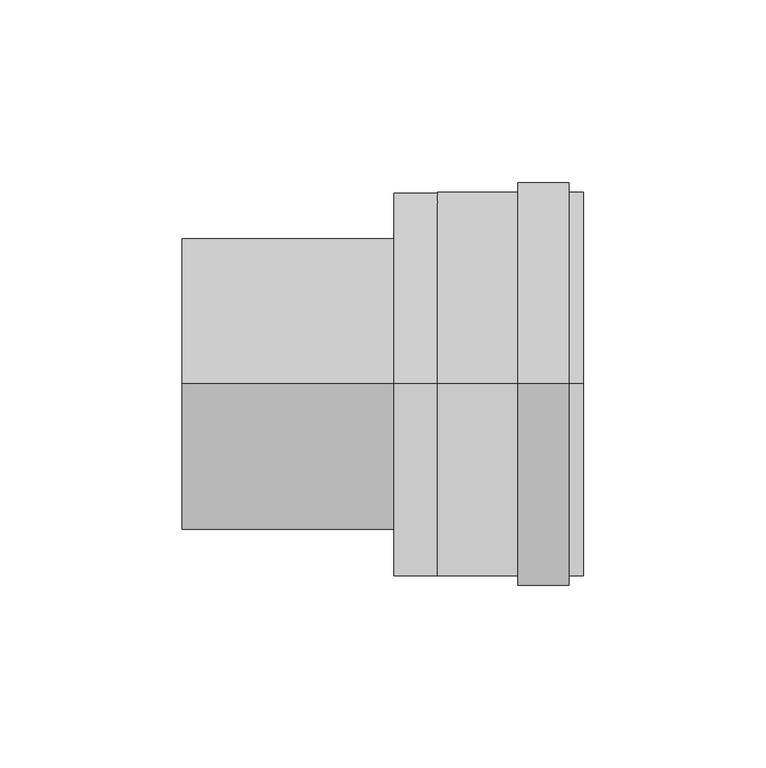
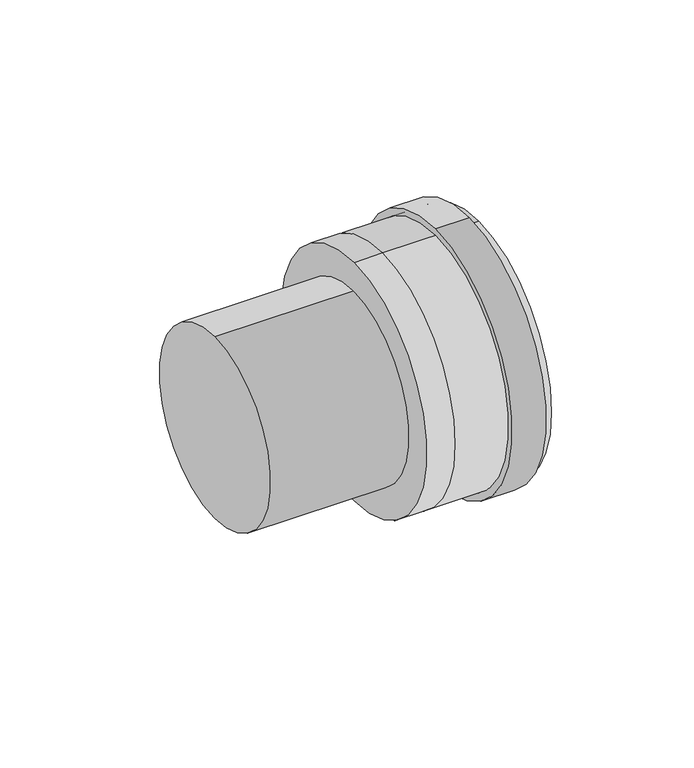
"""IFC4 building model written with IfcOpenShell, lengths in millimetres: duct fitting geometry, RSFen_DUF_UN_Twinline Expander_M&G : ø60-80-100-130-150-200."""

from ifc_helpers import new_model, si_unit, point, frame, origin, origin_2d, place, context, project, spatial, polyline, circle_curve, trimmed, segment, composite_curve, outline, extrude, source, transform, mapped, element, save
from ifc_brep_helpers import plane_surface, cylinder_surface, revolved_surface, advanced_brep


def duct_fitting_533d9af2(model_context):
    return source(origin(), model_context, "Body", "SolidModel", [
        extrude(outline(composite_curve([segment(trimmed(circle_curve(origin_2d(), 55.5), [point((0.0, 55.5))], [point((0.0, -55.5))], False, "CARTESIAN"), True, "CONTINUOUS"), segment(trimmed(circle_curve(origin_2d(), 55.5), [point((0.0, -55.5))], [point((0.0, 55.5))], False, "CARTESIAN"), True, "CONTINUOUS")], self_intersect=False), holes=[composite_curve([segment(trimmed(circle_curve(origin_2d(), 52.5), [point((0.0, -52.5))], [point((0.0, 52.5))], True, "CARTESIAN"), True, "CONTINUOUS"), segment(trimmed(circle_curve(origin_2d(), 52.5), [point((0.0, 52.5))], [point((0.0, -52.5))], True, "CARTESIAN"), True, "CONTINUOUS")], self_intersect=False)]), frame((92.0, 0.0, 0.0), z_axis=(1.0, 0.0, 0.0), x_axis=(0.0, 1.0, 0.0)), (0.0, 0.0, 1.0), 14.0),
        advanced_brep(
        [(110.0, 0.0, 52.5), (110.0, 0.0, -52.5), (110.0, 0.0, -50.5), (110.0, 0.0, 50.5), (70.0, 0.0, 52.5), (70.0, 0.0, -52.5), (70.0, 0.0, -50.5), (70.0, 0.0, 50.5), (58.0, 0.0, 52.5), (58.0, 0.0, -52.5)],
        [
            (0, 1, circle_curve(frame((110.0, 0.0, 0.0), z_axis=(1.0, 0.0, 0.0), x_axis=(0.0, 0.0, -1.0)), 52.5)),
            (1, 0, circle_curve(frame((110.0, 0.0, 0.0), z_axis=(1.0, 0.0, 0.0), x_axis=(0.0, 0.0, -1.0)), 52.5)),
            (2, 3, circle_curve(frame((110.0, 0.0, 0.0), z_axis=(-1.0, 0.0, 0.0), x_axis=(0.0, 0.0, 1.0)), 50.5)),
            (3, 2, circle_curve(frame((110.0, 0.0, 0.0), z_axis=(-1.0, 0.0, 0.0), x_axis=(0.0, 0.0, 1.0)), 50.5)),
            (0, 4),
            (4, 5, circle_curve(frame((70.0, 0.0, 0.0), z_axis=(1.0, 0.0, 0.0), x_axis=(0.0, 0.0, -1.0)), 52.5)),
            (5, 1),
            (5, 4, circle_curve(frame((70.0, 0.0, 0.0), z_axis=(1.0, 0.0, 0.0), x_axis=(0.0, 0.0, -1.0)), 52.5)),
            (2, 6),
            (6, 7, circle_curve(frame((70.0, 0.0, 0.0), z_axis=(-1.0, 0.0, 0.0), x_axis=(0.0, 0.0, 1.0)), 50.5)),
            (7, 3),
            (7, 6, circle_curve(frame((70.0, 0.0, 0.0), z_axis=(-1.0, 0.0, 0.0), x_axis=(0.0, 0.0, 1.0)), 50.5)),
            (8, 9, circle_curve(frame((58.0, 0.0, 0.0), z_axis=(-1.0, 0.0, 0.0), x_axis=(0.0, 0.0, -1.0)), 52.5)),
            (9, 8, circle_curve(frame((58.0, 0.0, 0.0), z_axis=(-1.0, 0.0, 0.0), x_axis=(0.0, 0.0, -1.0)), 52.5)),
            (9, 5),
            (4, 8),
        ],
        [
            plane_surface(frame((110.0, 0.0, -52.5), z_axis=(1.0, 0.0, 0.0), x_axis=(0.0, 1.0, 0.0))),
            cylinder_surface(frame((70.0, 0.0, 0.0), z_axis=(1.0, 0.0, 0.0), x_axis=(0.0, 0.0, -1.0)), 52.5),
            revolved_surface(polyline([(70.0, 0.0, 50.5), (110.0, 0.0, 50.5)]), (110.3288528, 0.0, 0.0), (-1.0, 0.0, 0.0)),
            plane_surface(frame((70.0, 0.0, -52.5), z_axis=(1.0, 0.0, 0.0), x_axis=(0.0, 1.0, 0.0))),
            plane_surface(frame((58.0, 0.0, -52.5), z_axis=(-1.0, 0.0, 0.0), x_axis=(0.0, -1.0, 0.0))),
            cylinder_surface(frame((58.0, 0.0, 0.0), z_axis=(1.0, 0.0, 0.0), x_axis=(0.0, 0.0, -1.0)), 52.5),
        ],
        [
            (0, [[1, 2], [3, 4]]),
            (1, [[-1, 5, 6, 7]]),
            (1, [[-2, -7, 8, -5]]),
            (2, [[9, 10, 11, -3]]),
            (2, [[-9, -4, -11, 12]]),
            (3, [[-10, -12]]),
            (4, [[13, 14]]),
            (5, [[-14, 15, -6, 16]]),
            (5, [[-13, -16, -8, -15]]),
        ],
    ),
        extrude(outline(composite_curve([segment(trimmed(circle_curve(origin_2d(), 40.0), [point((0.0, -40.0))], [point((0.0, 40.0))], False, "CARTESIAN"), True, "CONTINUOUS"), segment(trimmed(circle_curve(origin_2d(), 40.0), [point((0.0, 40.0))], [point((0.0, -40.0))], False, "CARTESIAN"), True, "CONTINUOUS")], self_intersect=False)), frame((0.0, 0.0, 0.0), z_axis=(1.0, 0.0, 0.0), x_axis=(0.0, 1.0, 0.0)), (0.0, 0.0, 1.0), 58.0),
    ])


if __name__ == "__main__":
    model = new_model("IFC4")
    model_context = context("Model", 3, world=origin())
    ifc_project = project(units=[si_unit("LENGTHUNIT", "METRE", prefix="MILLI")], contexts=[model_context])
    site = spatial("IfcSite", under=ifc_project)
    building = spatial("IfcBuilding", under=site)
    placement = place(None, origin())
    duct_fitting_shape = duct_fitting_533d9af2(model_context)
    element("IfcDuctFitting", 1, ObjectType="RSFen_DUF_UN_Twinline Expander_M&G : ø60-80-100-130-150-200", at=placement, inside=building, context=model_context, shape_type="MappedRepresentation", body=[
        mapped(duct_fitting_shape, transform((0.0, 0.0, 0.0), x_axis=(1.0, 0.0, 0.0), y_axis=(0.0, 1.0, 0.0), z_axis=(0.0, 0.0, 1.0))),
    ])
    save(model, "model.ifc")
